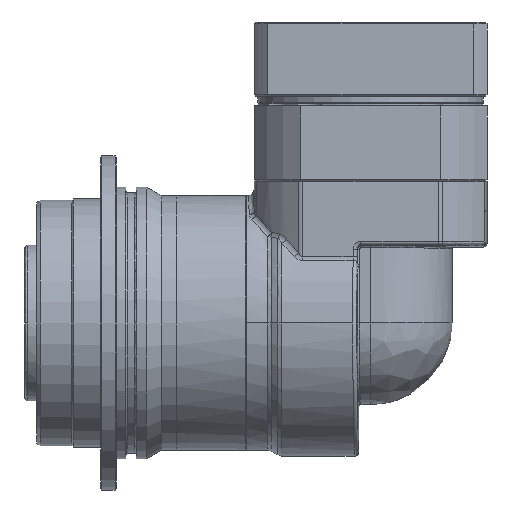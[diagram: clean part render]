
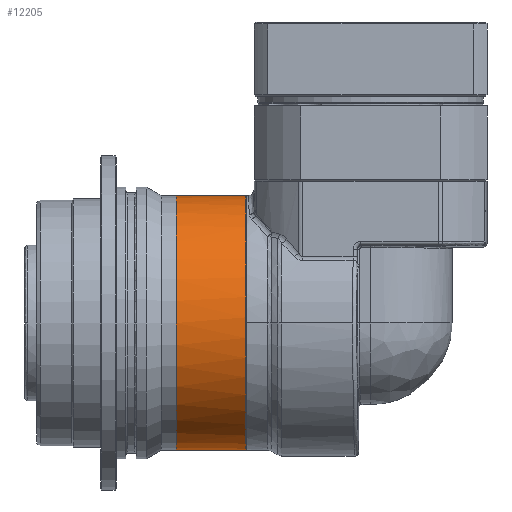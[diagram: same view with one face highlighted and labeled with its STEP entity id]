
A CAD part, front view. The second image highlights one B-rep face of the part: STEP entity #12205.
In plain terms, the highlighted cylindrical face has radius 32.75 mm (diameter 65.5 mm), a partial arc.
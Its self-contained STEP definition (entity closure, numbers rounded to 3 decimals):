
#275 = CARTESIAN_POINT ( 'NONE',  ( -68.665, -26.92, 20.081 ) ) ;
#695 = CARTESIAN_POINT ( 'NONE',  ( -86.465, -26.92, 52.831 ) ) ;
#1859 = DIRECTION ( 'NONE',  ( -1., 0., 0. ) ) ;
#4708 = CARTESIAN_POINT ( 'NONE',  ( -68.665, -56.356, 67.345 ) ) ;
#5123 = DIRECTION ( 'NONE',  ( 0., 0., 1. ) ) ;
#5303 = CARTESIAN_POINT ( 'NONE',  ( -68.665, -58.622, 44.34 ) ) ;
#5824 = EDGE_LOOP ( 'NONE', ( #6935, #60836, #12328, #60475 ) ) ;
#6584 = CARTESIAN_POINT ( 'NONE',  ( -86.465, -26.92, 52.831 ) ) ;
#6935 = ORIENTED_EDGE ( 'NONE', *, *, #10046, .F. ) ;
#7916 = CARTESIAN_POINT ( 'NONE',  ( -68.665, -35.411, 84.534 ) ) ;
#9137 = CARTESIAN_POINT ( 'NONE',  ( -68.665, -52.959, 72.809 ) ) ;
#10046 = EDGE_CURVE ( 'NONE', #41579, #21163, #12978, .T. ) ;
#10377 = CARTESIAN_POINT ( 'NONE',  ( -68.665, -57.997, 63.384 ) ) ;
#10475 = DIRECTION ( 'NONE',  ( 0., 0., 1. ) ) ;
#12205 = ADVANCED_FACE ( 'NONE', ( #57971 ), #15246, .T. ) ;
#12328 = ORIENTED_EDGE ( 'NONE', *, *, #50408, .T. ) ;
#12978 = LINE ( 'NONE', #32283, #40803 ) ;
#13415 = VECTOR ( 'NONE', #40802, 1000. ) ;
#14836 = CARTESIAN_POINT ( 'NONE',  ( -68.665, -46.897, 26.792 ) ) ;
#15138 = CARTESIAN_POINT ( 'NONE',  ( -68.665, -59.67, 50.688 ) ) ;
#15233 = DIRECTION ( 'NONE',  ( -1., 0., 0. ) ) ;
#15246 = CYLINDRICAL_SURFACE ( 'NONE', #25135, 32.75 ) ;
#18759 = CIRCLE ( 'NONE', #38954, 32.75 ) ;
#18951 = CARTESIAN_POINT ( 'NONE',  ( -68.665, -59.458, 57.118 ) ) ;
#19256 = CARTESIAN_POINT ( 'NONE',  ( -68.665, -59.67, 54.975 ) ) ;
#19553 = CARTESIAN_POINT ( 'NONE',  ( -68.665, -26.92, 85.581 ) ) ;
#19559 = CARTESIAN_POINT ( 'NONE',  ( -68.665, -41.433, 23.395 ) ) ;
#19882 = CARTESIAN_POINT ( 'NONE',  ( -68.665, -29.063, 20.081 ) ) ;
#21163 = VERTEX_POINT ( 'NONE', #38250 ) ;
#25135 = AXIS2_PLACEMENT_3D ( 'NONE', #6584, #1859, #5123 ) ;
#27211 = DIRECTION ( 'NONE',  ( -1., 0., 0. ) ) ;
#28437 = CARTESIAN_POINT ( 'NONE',  ( -68.665, -51.593, 74.474 ) ) ;
#28758 = CARTESIAN_POINT ( 'NONE',  ( -68.665, -57.997, 42.279 ) ) ;
#29342 = EDGE_CURVE ( 'NONE', #21163, #49134, #18759, .T. ) ;
#32283 = CARTESIAN_POINT ( 'NONE',  ( -86.465, -26.92, 20.081 ) ) ;
#33152 = VERTEX_POINT ( 'NONE', #19553 ) ;
#33835 = CARTESIAN_POINT ( 'NONE',  ( -68.665, -48.562, 77.505 ) ) ;
#34152 = CARTESIAN_POINT ( 'NONE',  ( -68.665, -48.562, 28.158 ) ) ;
#36692 = CARTESIAN_POINT ( 'NONE',  ( -86.465, -26.92, 85.581 ) ) ;
#37675 = CARTESIAN_POINT ( 'NONE',  ( -68.665, -31.206, 85.37 ) ) ;
#38250 = CARTESIAN_POINT ( 'NONE',  ( -86.465, -26.92, 20.081 ) ) ;
#38259 = CARTESIAN_POINT ( 'NONE',  ( -68.665, -31.206, 20.293 ) ) ;
#38305 = CARTESIAN_POINT ( 'NONE',  ( -68.665, -26.92, 85.581 ) ) ;
#38560 = CARTESIAN_POINT ( 'NONE',  ( -68.665, -43.332, 24.41 ) ) ;
#38870 = CARTESIAN_POINT ( 'NONE',  ( -68.665, -56.356, 38.318 ) ) ;
#38954 = AXIS2_PLACEMENT_3D ( 'NONE', #695, #15233, #10475 ) ;
#39027 = CARTESIAN_POINT ( 'NONE',  ( -86.465, -26.92, 85.581 ) ) ;
#40802 = DIRECTION ( 'NONE',  ( -1., 0., 0. ) ) ;
#40803 = VECTOR ( 'NONE', #27211, 1000. ) ;
#41579 = VERTEX_POINT ( 'NONE', #62424 ) ;
#43011 = CARTESIAN_POINT ( 'NONE',  ( -68.665, -43.332, 81.253 ) ) ;
#43040 = EDGE_CURVE ( 'NONE', #41579, #33152, #52831, .T. ) ;
#43318 = CARTESIAN_POINT ( 'NONE',  ( -68.665, -35.411, 21.129 ) ) ;
#47730 = CARTESIAN_POINT ( 'NONE',  ( -68.665, -46.897, 78.871 ) ) ;
#48053 = CARTESIAN_POINT ( 'NONE',  ( -68.665, -59.458, 48.545 ) ) ;
#48656 = CARTESIAN_POINT ( 'NONE',  ( -68.665, -55.341, 36.419 ) ) ;
#49134 = VERTEX_POINT ( 'NONE', #39027 ) ;
#50408 = EDGE_CURVE ( 'NONE', #33152, #49134, #55669, .T. ) ;
#51288 = CARTESIAN_POINT ( 'NONE',  ( -68.665, -29.063, 85.581 ) ) ;
#52502 = CARTESIAN_POINT ( 'NONE',  ( -68.665, -55.341, 69.244 ) ) ;
#52831 = B_SPLINE_CURVE_WITH_KNOTS ( 'NONE', 3,
 ( #275, #19882, #38259, #43318, #58491, #19559, #38560, #14836, #34152, #57856, #53733, #48656, #38870, #28758, #5303, #48053, #15138, #19256, #18951, #58181, #10377, #4708, #52502, #9137, #28437, #33835, #47730, #43011, #62332, #57292, #7916, #37675, #51288, #38305 ),
 .UNSPECIFIED., .F., .F.,
 ( 4, 2, 2, 2, 2, 2, 2, 2, 2, 2, 2, 2, 2, 2, 2, 2, 4 ),
 ( 0., 0.063, 0.125, 0.188, 0.25, 0.313, 0.375, 0.438, 0.5, 0.563, 0.625, 0.688, 0.75, 0.813, 0.875, 0.938, 1. ),
 .UNSPECIFIED. ) ;
#53733 = CARTESIAN_POINT ( 'NONE',  ( -68.665, -52.959, 32.854 ) ) ;
#55669 = LINE ( 'NONE', #36692, #13415 ) ;
#57292 = CARTESIAN_POINT ( 'NONE',  ( -68.665, -37.472, 83.909 ) ) ;
#57856 = CARTESIAN_POINT ( 'NONE',  ( -68.665, -51.593, 31.189 ) ) ;
#57971 = FACE_OUTER_BOUND ( 'NONE', #5824, .T. ) ;
#58181 = CARTESIAN_POINT ( 'NONE',  ( -68.665, -58.622, 61.323 ) ) ;
#58491 = CARTESIAN_POINT ( 'NONE',  ( -68.665, -37.472, 21.754 ) ) ;
#60475 = ORIENTED_EDGE ( 'NONE', *, *, #29342, .F. ) ;
#60836 = ORIENTED_EDGE ( 'NONE', *, *, #43040, .T. ) ;
#62332 = CARTESIAN_POINT ( 'NONE',  ( -68.665, -41.433, 82.268 ) ) ;
#62424 = CARTESIAN_POINT ( 'NONE',  ( -68.665, -26.92, 20.081 ) ) ;
